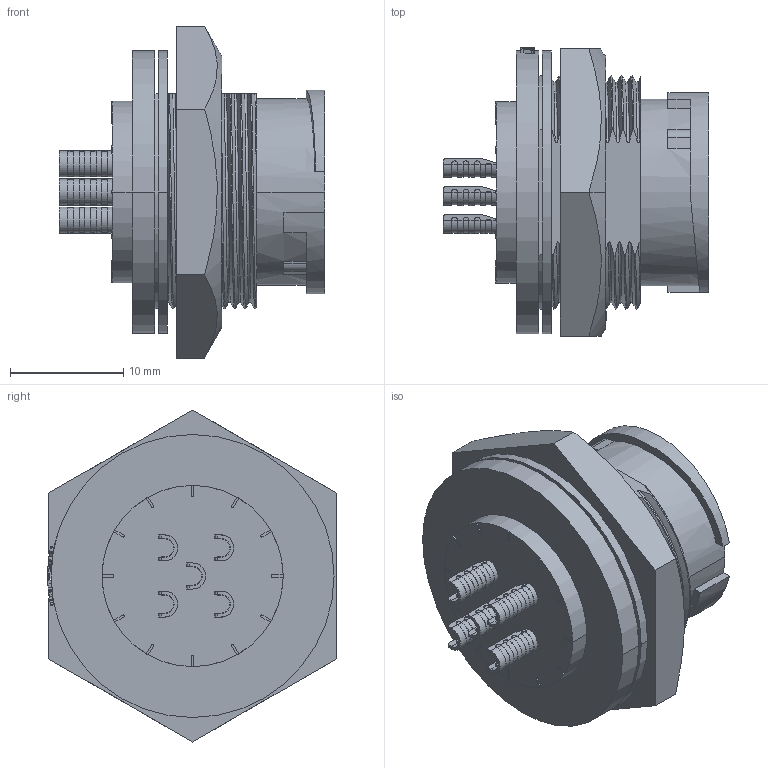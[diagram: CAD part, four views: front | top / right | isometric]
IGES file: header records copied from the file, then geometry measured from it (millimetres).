
Start section:  PTC IGES file: ACB-05PMFS-LC7001.igs
Global section: file name: ACB-05PMFS-LC7001.igs; native system: Creo Parametric by Parametric Technology Corporation; preprocessor: 2013050; author: KS7307; organization: Unknown; date: 20160621.133012; units: millimetre
Bounding box: 23.45 x 25.5 x 29.33 mm (x, y, z)
Volume: 5541.9 mm3; surface area: 5653.2 mm2
Topology: 2 solids, 2 shells, 1129 faces, 3187 edges, 2078 vertices
Faces by surface type: bspline 693, revolution 327, extrusion 109
